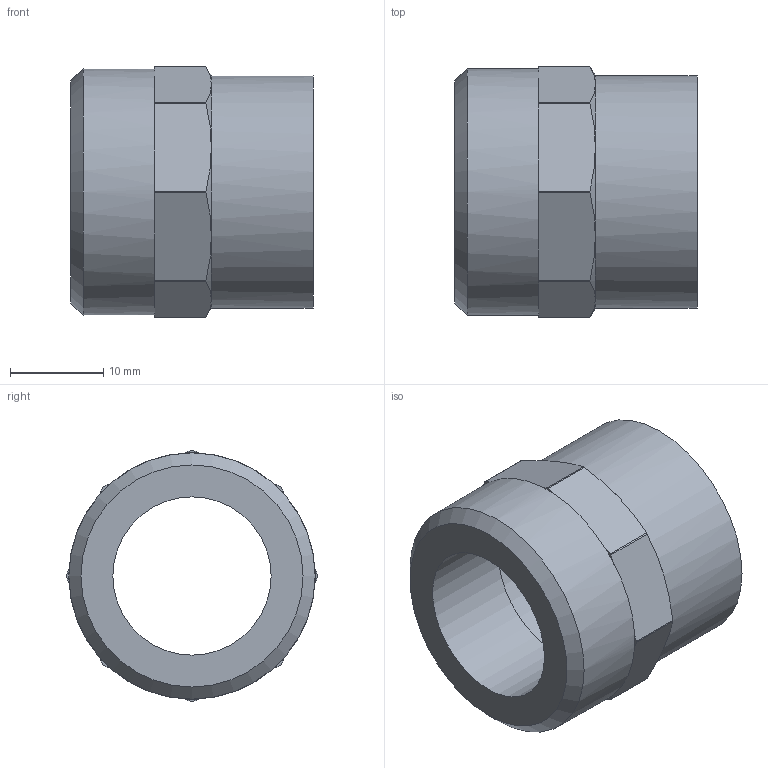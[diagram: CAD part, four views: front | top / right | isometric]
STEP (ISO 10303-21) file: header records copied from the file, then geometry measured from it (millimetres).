
FILE_DESCRIPTION(/* description */ (''),/* implementation_level */ '2;1');
FILE_NAME(/* name */ '\\LG50011\SANHA_Legnica\Engineering\Public\RYSUNKI\SANHA POLSKA\4370\inventor\14370_22-34(2).stp',/* time_stamp */ '2017-08-07T10:30:42+02:00',/* author */ ('gomulka'),/* organization */ (''),/* preprocessor_version */ 'ST-DEVELOPER v15.6',/* originating_system */ 'Autodesk Inventor 2015',/* authorisation */ '');
FILE_SCHEMA (('AUTOMOTIVE_DESIGN { 1 0 10303 214 3 1 1 }'));
Length unit declared in the file: millimetre
Products named in the file (1): 14370_22-34(2)
Bounding box: 26 x 27 x 27 mm (x, y, z)
Volume: 5025.4 mm3; surface area: 4318.4 mm2
Topology: 1 solids, 1 shells, 48 faces, 110 edges, 65 vertices
Faces by surface type: plane 27, cylinder 12, cone 9
Full cylindrical faces by diameter (mm): 17 x1, 22 x1, 25 x1, 26.441 x1
Entity records: 1310 total; most frequent: CARTESIAN_POINT 247, DIRECTION 232, ORIENTED_EDGE 206, EDGE_CURVE 103, AXIS2_PLACEMENT_3D 96, VERTEX_POINT 63, EDGE_LOOP 56, FACE_OUTER_BOUND 48
